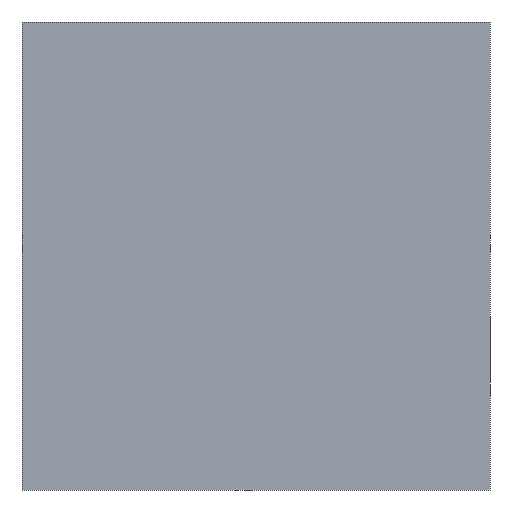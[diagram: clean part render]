
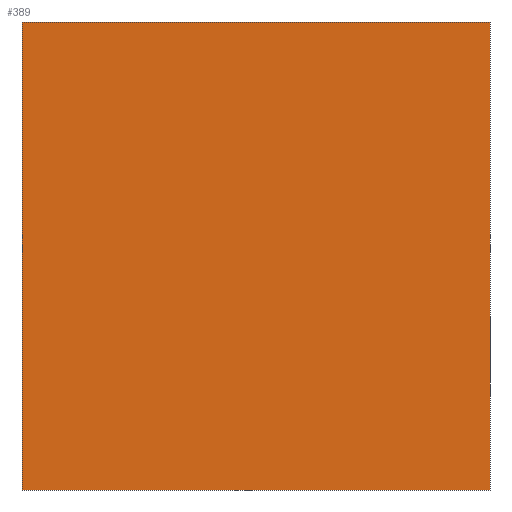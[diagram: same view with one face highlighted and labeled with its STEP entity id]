
A CAD part, front view. The second image highlights one B-rep face of the part: STEP entity #389.
In plain terms, the highlighted planar face has unit normal (0, -1, 0).
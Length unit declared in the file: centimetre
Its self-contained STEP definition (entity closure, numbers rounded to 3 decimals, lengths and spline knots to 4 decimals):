
#28 = EDGE_CURVE ( 'NONE', #472, #59, #104, .T. ) ;
#38 = DIRECTION ( 'NONE',  ( 0., 0., 1. ) ) ;
#54 = CARTESIAN_POINT ( 'NONE',  ( 0., 0., 0. ) ) ;
#59 = VERTEX_POINT ( 'NONE', #223 ) ;
#66 = LINE ( 'NONE', #173, #106 ) ;
#80 = DIRECTION ( 'NONE',  ( 1., 0., 0. ) ) ;
#104 = LINE ( 'NONE', #440, #149 ) ;
#106 = VECTOR ( 'NONE', #177, 100. ) ;
#147 = PLANE ( 'NONE',  #410 ) ;
#148 = EDGE_CURVE ( 'NONE', #433, #182, #244, .T. ) ;
#149 = VECTOR ( 'NONE', #286, 100. ) ;
#151 = LINE ( 'NONE', #417, #469 ) ;
#154 = ORIENTED_EDGE ( 'NONE', *, *, #451, .F. ) ;
#166 = VECTOR ( 'NONE', #80, 100. ) ;
#173 = CARTESIAN_POINT ( 'NONE',  ( 0., 0., 1000. ) ) ;
#177 = DIRECTION ( 'NONE',  ( 0., 0., -1. ) ) ;
#182 = VERTEX_POINT ( 'NONE', #445 ) ;
#186 = FACE_OUTER_BOUND ( 'NONE', #318, .T. ) ;
#187 = CARTESIAN_POINT ( 'NONE',  ( 0., 0., 1000. ) ) ;
#212 = ORIENTED_EDGE ( 'NONE', *, *, #28, .F. ) ;
#218 = ORIENTED_EDGE ( 'NONE', *, *, #148, .T. ) ;
#223 = CARTESIAN_POINT ( 'NONE',  ( 1000., 0., 1000. ) ) ;
#225 = DIRECTION ( 'NONE',  ( 0., 0., -1. ) ) ;
#241 = EDGE_CURVE ( 'NONE', #472, #433, #66, .T. ) ;
#244 = LINE ( 'NONE', #54, #166 ) ;
#266 = CARTESIAN_POINT ( 'NONE',  ( 0., 0., 0. ) ) ;
#286 = DIRECTION ( 'NONE',  ( 1., 0., 0. ) ) ;
#299 = CARTESIAN_POINT ( 'NONE',  ( 0., 0., 1000. ) ) ;
#318 = EDGE_LOOP ( 'NONE', ( #218, #154, #212, #329 ) ) ;
#329 = ORIENTED_EDGE ( 'NONE', *, *, #241, .T. ) ;
#389 = ADVANCED_FACE ( 'NONE', ( #186 ), #147, .F. ) ;
#410 = AXIS2_PLACEMENT_3D ( 'NONE', #299, #413, #38 ) ;
#413 = DIRECTION ( 'NONE',  ( 0., 1., 0. ) ) ;
#417 = CARTESIAN_POINT ( 'NONE',  ( 1000., 0., 1000. ) ) ;
#433 = VERTEX_POINT ( 'NONE', #266 ) ;
#440 = CARTESIAN_POINT ( 'NONE',  ( 0., 0., 1000. ) ) ;
#445 = CARTESIAN_POINT ( 'NONE',  ( 1000., 0., 0. ) ) ;
#451 = EDGE_CURVE ( 'NONE', #59, #182, #151, .T. ) ;
#469 = VECTOR ( 'NONE', #225, 100. ) ;
#472 = VERTEX_POINT ( 'NONE', #187 ) ;
